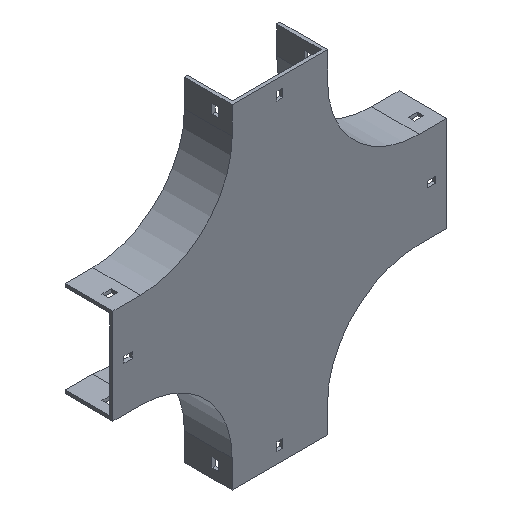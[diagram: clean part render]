
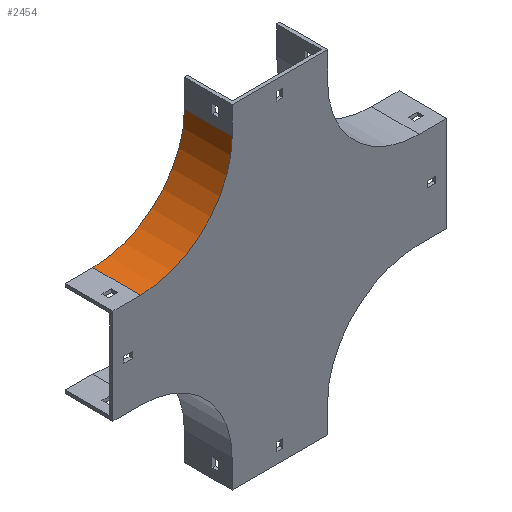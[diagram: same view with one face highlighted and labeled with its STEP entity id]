
A CAD part, isometric view. The second image highlights one B-rep face of the part: STEP entity #2454.
In plain terms, the highlighted cylindrical face has radius 100 mm (diameter 200 mm), a partial arc.
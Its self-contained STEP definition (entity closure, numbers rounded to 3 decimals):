
#74 = CIRCLE ( 'NONE', #477, 100. ) ;
#132 = CARTESIAN_POINT ( 'NONE',  ( -304., 52., 0. ) ) ;
#182 = CARTESIAN_POINT ( 'NONE',  ( -204., 0., 0. ) ) ;
#204 = EDGE_CURVE ( 'NONE', #262, #1490, #1376, .T. ) ;
#212 = EDGE_CURVE ( 'NONE', #469, #262, #1463, .T. ) ;
#262 = VERTEX_POINT ( 'NONE', #1024 ) ;
#304 = ORIENTED_EDGE ( 'NONE', *, *, #212, .F. ) ;
#338 = DIRECTION ( 'NONE',  ( 0., -1., 0. ) ) ;
#382 = EDGE_LOOP ( 'NONE', ( #1355, #879, #304, #2170 ) ) ;
#469 = VERTEX_POINT ( 'NONE', #2661 ) ;
#477 = AXIS2_PLACEMENT_3D ( 'NONE', #2711, #2495, #2468 ) ;
#642 = FACE_OUTER_BOUND ( 'NONE', #382, .T. ) ;
#750 = VERTEX_POINT ( 'NONE', #1977 ) ;
#879 = ORIENTED_EDGE ( 'NONE', *, *, #204, .F. ) ;
#925 = VECTOR ( 'NONE', #2534, 1000. ) ;
#933 = VECTOR ( 'NONE', #1634, 1000. ) ;
#1014 = DIRECTION ( 'NONE',  ( 0., 0., -1. ) ) ;
#1024 = CARTESIAN_POINT ( 'NONE',  ( -204., 52., 0. ) ) ;
#1293 = CYLINDRICAL_SURFACE ( 'NONE', #1689, 100. ) ;
#1355 = ORIENTED_EDGE ( 'NONE', *, *, #1827, .T. ) ;
#1376 = LINE ( 'NONE', #2710, #933 ) ;
#1463 = CIRCLE ( 'NONE', #2011, 100. ) ;
#1474 = DIRECTION ( 'NONE',  ( 0., -1., 0. ) ) ;
#1490 = VERTEX_POINT ( 'NONE', #182 ) ;
#1634 = DIRECTION ( 'NONE',  ( 0., -1., 0. ) ) ;
#1689 = AXIS2_PLACEMENT_3D ( 'NONE', #2152, #1474, #1014 ) ;
#1827 = EDGE_CURVE ( 'NONE', #750, #1490, #74, .T. ) ;
#1891 = LINE ( 'NONE', #2752, #925 ) ;
#1977 = CARTESIAN_POINT ( 'NONE',  ( -304., 0., -100. ) ) ;
#2011 = AXIS2_PLACEMENT_3D ( 'NONE', #132, #338, #2680 ) ;
#2152 = CARTESIAN_POINT ( 'NONE',  ( -304., 52., 0. ) ) ;
#2170 = ORIENTED_EDGE ( 'NONE', *, *, #2477, .T. ) ;
#2454 = ADVANCED_FACE ( 'NONE', ( #642 ), #1293, .F. ) ;
#2468 = DIRECTION ( 'NONE',  ( 0., 0., 1. ) ) ;
#2477 = EDGE_CURVE ( 'NONE', #469, #750, #1891, .T. ) ;
#2495 = DIRECTION ( 'NONE',  ( 0., -1., 0. ) ) ;
#2534 = DIRECTION ( 'NONE',  ( 0., -1., 0. ) ) ;
#2661 = CARTESIAN_POINT ( 'NONE',  ( -304., 52., -100. ) ) ;
#2680 = DIRECTION ( 'NONE',  ( 0., 0., 1. ) ) ;
#2710 = CARTESIAN_POINT ( 'NONE',  ( -204., 52., 0. ) ) ;
#2711 = CARTESIAN_POINT ( 'NONE',  ( -304., 0., 0. ) ) ;
#2752 = CARTESIAN_POINT ( 'NONE',  ( -304., 52., -100. ) ) ;
